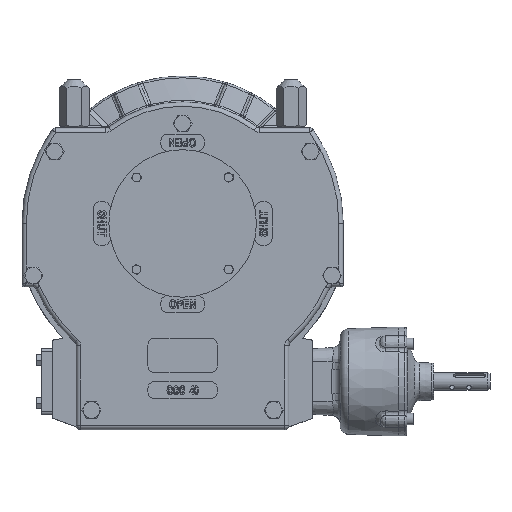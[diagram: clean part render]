
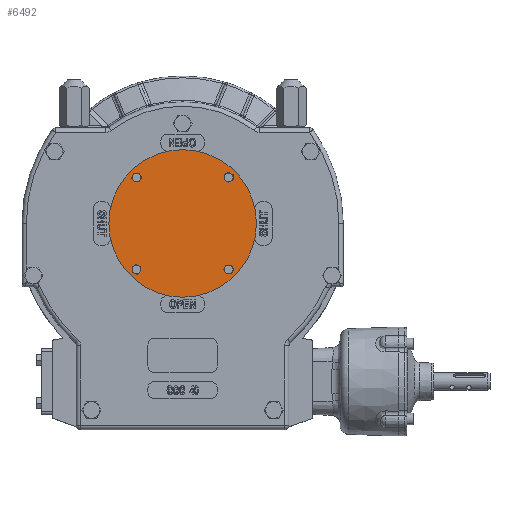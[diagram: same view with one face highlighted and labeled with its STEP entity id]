
A CAD part, top view. The second image highlights one B-rep face of the part: STEP entity #6492.
In plain terms, the highlighted planar face has unit normal (0, 0, 1).
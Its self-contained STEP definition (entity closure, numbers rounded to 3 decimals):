
#6492 = ADVANCED_FACE( '', ( #14079, #14080, #14081, #14082, #14083 ), #14084, .F. );
#14079 = FACE_BOUND( '', #31733, .T. );
#14080 = FACE_BOUND( '', #31734, .T. );
#14081 = FACE_BOUND( '', #31735, .T. );
#14082 = FACE_BOUND( '', #31736, .T. );
#14083 = FACE_OUTER_BOUND( '', #31737, .T. );
#14084 = PLANE( '', #31738 );
#31733 = EDGE_LOOP( '', ( #54563 ) );
#31734 = EDGE_LOOP( '', ( #54564 ) );
#31735 = EDGE_LOOP( '', ( #54565 ) );
#31736 = EDGE_LOOP( '', ( #54566 ) );
#31737 = EDGE_LOOP( '', ( #54567 ) );
#31738 = AXIS2_PLACEMENT_3D( '', #54568, #54569, #54570 );
#54563 = ORIENTED_EDGE( '', *, *, #69439, .T. );
#54564 = ORIENTED_EDGE( '', *, *, #69005, .T. );
#54565 = ORIENTED_EDGE( '', *, *, #69440, .T. );
#54566 = ORIENTED_EDGE( '', *, *, #66616, .T. );
#54567 = ORIENTED_EDGE( '', *, *, #65493, .F. );
#54568 = CARTESIAN_POINT( '', ( 0., 0., 127. ) );
#54569 = DIRECTION( '', ( 0., 0., -1. ) );
#54570 = DIRECTION( '', ( -1., 0., 0. ) );
#65493 = EDGE_CURVE( '', #77412, #77412, #77413, .T. );
#66616 = EDGE_CURVE( '', #79060, #79060, #79061, .T. );
#69005 = EDGE_CURVE( '', #82198, #82198, #82199, .T. );
#69439 = EDGE_CURVE( '', #82734, #82734, #82735, .T. );
#69440 = EDGE_CURVE( '', #82736, #82736, #82737, .T. );
#77412 = VERTEX_POINT( '', #100567 );
#77413 = CIRCLE( '', #100568, 85. );
#79060 = VERTEX_POINT( '', #104058 );
#79061 = CIRCLE( '', #104059, 5. );
#82198 = VERTEX_POINT( '', #111489 );
#82199 = CIRCLE( '', #111490, 5. );
#82734 = VERTEX_POINT( '', #112423 );
#82735 = CIRCLE( '', #112424, 5. );
#82736 = VERTEX_POINT( '', #112425 );
#82737 = CIRCLE( '', #112426, 5. );
#100567 = CARTESIAN_POINT( '', ( 85., 0., 127. ) );
#100568 = AXIS2_PLACEMENT_3D( '', #119750, #119751, #119752 );
#104058 = CARTESIAN_POINT( '', ( -48.033, 53.033, 127. ) );
#104059 = AXIS2_PLACEMENT_3D( '', #121019, #121020, #121021 );
#111489 = CARTESIAN_POINT( '', ( -53.033, -48.033, 127. ) );
#111490 = AXIS2_PLACEMENT_3D( '', #123543, #123544, #123545 );
#112423 = CARTESIAN_POINT( '', ( 48.033, -53.033, 127. ) );
#112424 = AXIS2_PLACEMENT_3D( '', #124138, #124139, #124140 );
#112425 = CARTESIAN_POINT( '', ( 53.033, 48.033, 127. ) );
#112426 = AXIS2_PLACEMENT_3D( '', #124141, #124142, #124143 );
#119750 = CARTESIAN_POINT( '', ( 0., 0., 127. ) );
#119751 = DIRECTION( '', ( 0., 0., -1. ) );
#119752 = DIRECTION( '', ( 1., 0., 0. ) );
#121019 = CARTESIAN_POINT( '', ( -53.033, 53.033, 127. ) );
#121020 = DIRECTION( '', ( 0., 0., -1. ) );
#121021 = DIRECTION( '', ( 1., 0., 0. ) );
#123543 = CARTESIAN_POINT( '', ( -53.033, -53.033, 127. ) );
#123544 = DIRECTION( '', ( 0., 0., -1. ) );
#123545 = DIRECTION( '', ( 0., 1., 0. ) );
#124138 = CARTESIAN_POINT( '', ( 53.033, -53.033, 127. ) );
#124139 = DIRECTION( '', ( 0., 0., -1. ) );
#124140 = DIRECTION( '', ( -1., 0., 0. ) );
#124141 = CARTESIAN_POINT( '', ( 53.033, 53.033, 127. ) );
#124142 = DIRECTION( '', ( 0., 0., -1. ) );
#124143 = DIRECTION( '', ( 0., -1., 0. ) );
